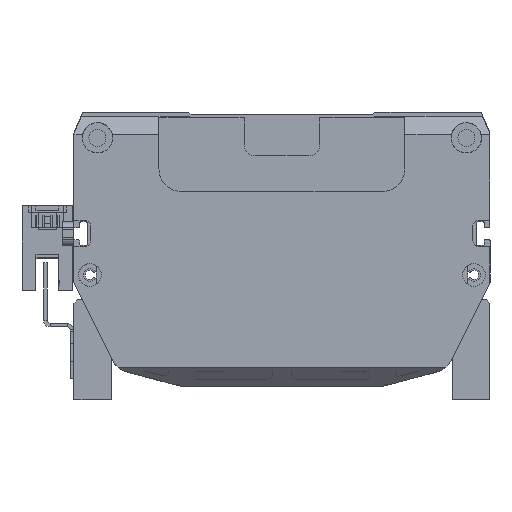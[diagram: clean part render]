
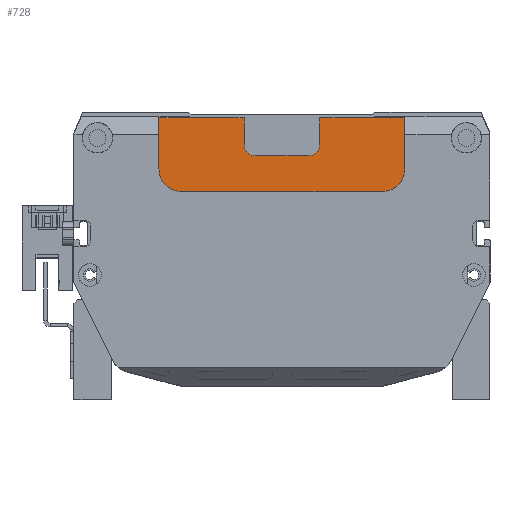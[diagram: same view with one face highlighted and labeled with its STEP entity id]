
A CAD part, front view. The second image highlights one B-rep face of the part: STEP entity #728.
In plain terms, the highlighted planar face has unit normal (0, -1, 0) as drawn and (0, 0, -1) by its records, which use the part's own axes.
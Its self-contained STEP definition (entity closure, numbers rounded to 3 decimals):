
#257 = VECTOR ( 'NONE', #12021, 1000. ) ;
#407 = VECTOR ( 'NONE', #11612, 1000. ) ;
#413 = VERTEX_POINT ( 'NONE', #13125 ) ;
#424 = VERTEX_POINT ( 'NONE', #18554 ) ;
#728 = ADVANCED_FACE ( 'NONE', ( #18961 ), #2646, .F. ) ;
#889 = LINE ( 'NONE', #15942, #5941 ) ;
#995 = DIRECTION ( 'NONE',  ( -1., 0., 0. ) ) ;
#1027 = VECTOR ( 'NONE', #6805, 1000. ) ;
#1184 = CARTESIAN_POINT ( 'NONE',  ( 18.5, 20.179, 4.5 ) ) ;
#1627 = CARTESIAN_POINT ( 'NONE',  ( 10.9, 0.679, 4.5 ) ) ;
#1762 = AXIS2_PLACEMENT_3D ( 'NONE', #13635, #4585, #15270 ) ;
#1885 = LINE ( 'NONE', #20341, #11264 ) ;
#2100 = DIRECTION ( 'NONE',  ( 0., 0., -1. ) ) ;
#2193 = DIRECTION ( 'NONE',  ( 0., -1., 0. ) ) ;
#2646 = PLANE ( 'NONE',  #1762 ) ;
#3013 = AXIS2_PLACEMENT_3D ( 'NONE', #6102, #6195, #4210 ) ;
#3296 = CARTESIAN_POINT ( 'NONE',  ( 83.5, 20.179, 4.5 ) ) ;
#3301 = DIRECTION ( 'NONE',  ( 1., 0., 0. ) ) ;
#3417 = ORIENTED_EDGE ( 'NONE', *, *, #19321, .T. ) ;
#3681 = LINE ( 'NONE', #19169, #11040 ) ;
#3831 = ORIENTED_EDGE ( 'NONE', *, *, #20858, .T. ) ;
#4210 = DIRECTION ( 'NONE',  ( 1., 0., 0. ) ) ;
#4585 = DIRECTION ( 'NONE',  ( 0., 0., 1. ) ) ;
#4936 = DIRECTION ( 'NONE',  ( 0., 0., -1. ) ) ;
#5822 = EDGE_CURVE ( 'NONE', #7610, #19292, #20590, .T. ) ;
#5850 = VERTEX_POINT ( 'NONE', #13736 ) ;
#5941 = VECTOR ( 'NONE', #17806, 1000. ) ;
#6039 = VERTEX_POINT ( 'NONE', #18711 ) ;
#6048 = CARTESIAN_POINT ( 'NONE',  ( 58., 10.679, 4.5 ) ) ;
#6102 = CARTESIAN_POINT ( 'NONE',  ( 77.5, 14.179, 4.5 ) ) ;
#6195 = DIRECTION ( 'NONE',  ( 0., 0., -1. ) ) ;
#6606 = DIRECTION ( 'NONE',  ( 0., 0., -1. ) ) ;
#6805 = DIRECTION ( 'NONE',  ( 0., -1., 0. ) ) ;
#7097 = CIRCLE ( 'NONE', #18647, 3. ) ;
#7237 = VECTOR ( 'NONE', #2193, 1000. ) ;
#7276 = VERTEX_POINT ( 'NONE', #20145 ) ;
#7610 = VERTEX_POINT ( 'NONE', #15074 ) ;
#7838 = ORIENTED_EDGE ( 'NONE', *, *, #9420, .F. ) ;
#7897 = EDGE_LOOP ( 'NONE', ( #15548, #7838, #17067, #20396, #15226, #22382, #23315, #18807, #10423, #11061, #3417, #19421, #3831, #18454 ) ) ;
#7937 = VERTEX_POINT ( 'NONE', #14356 ) ;
#8096 = LINE ( 'NONE', #3296, #1027 ) ;
#8272 = DIRECTION ( 'NONE',  ( 0., 1., 0. ) ) ;
#8418 = DIRECTION ( 'NONE',  ( 1., 0., 0. ) ) ;
#8945 = EDGE_CURVE ( 'NONE', #7937, #6039, #12617, .T. ) ;
#9333 = DIRECTION ( 'NONE',  ( 1., 0., 0. ) ) ;
#9405 = VERTEX_POINT ( 'NONE', #16672 ) ;
#9420 = EDGE_CURVE ( 'NONE', #19292, #9405, #15475, .T. ) ;
#10143 = LINE ( 'NONE', #1184, #257 ) ;
#10423 = ORIENTED_EDGE ( 'NONE', *, *, #16374, .T. ) ;
#10716 = DIRECTION ( 'NONE',  ( -1., 0., 0. ) ) ;
#11040 = VECTOR ( 'NONE', #995, 1000. ) ;
#11041 = EDGE_CURVE ( 'NONE', #7276, #413, #3681, .T. ) ;
#11061 = ORIENTED_EDGE ( 'NONE', *, *, #19150, .T. ) ;
#11264 = VECTOR ( 'NONE', #9333, 1000. ) ;
#11455 = EDGE_CURVE ( 'NONE', #5850, #7610, #12328, .T. ) ;
#11612 = DIRECTION ( 'NONE',  ( 1., 0., 0. ) ) ;
#11731 = CARTESIAN_POINT ( 'NONE',  ( 24.5, 20.179, 4.5 ) ) ;
#12021 = DIRECTION ( 'NONE',  ( 0., 1., 0. ) ) ;
#12291 = CARTESIAN_POINT ( 'NONE',  ( 83.5, 0.679, 4.5 ) ) ;
#12328 = LINE ( 'NONE', #6048, #407 ) ;
#12617 = CIRCLE ( 'NONE', #3013, 6. ) ;
#13125 = CARTESIAN_POINT ( 'NONE',  ( 18.5, 0.679, 4.5 ) ) ;
#13635 = CARTESIAN_POINT ( 'NONE',  ( 0., 0., 4.5 ) ) ;
#13736 = CARTESIAN_POINT ( 'NONE',  ( 44., 10.679, 4.5 ) ) ;
#13841 = CARTESIAN_POINT ( 'NONE',  ( 58., 7.679, 4.5 ) ) ;
#14052 = EDGE_CURVE ( 'NONE', #19631, #424, #18582, .T. ) ;
#14238 = LINE ( 'NONE', #1627, #16542 ) ;
#14344 = AXIS2_PLACEMENT_3D ( 'NONE', #13841, #6606, #8418 ) ;
#14356 = CARTESIAN_POINT ( 'NONE',  ( 77.5, 20.179, 4.5 ) ) ;
#14734 = EDGE_CURVE ( 'NONE', #7276, #17766, #889, .T. ) ;
#14954 = CIRCLE ( 'NONE', #18428, 6. ) ;
#15074 = CARTESIAN_POINT ( 'NONE',  ( 58., 10.679, 4.5 ) ) ;
#15226 = ORIENTED_EDGE ( 'NONE', *, *, #15324, .F. ) ;
#15270 = DIRECTION ( 'NONE',  ( 1., 0., 0. ) ) ;
#15324 = EDGE_CURVE ( 'NONE', #22402, #5850, #7097, .T. ) ;
#15378 = VECTOR ( 'NONE', #10716, 1000. ) ;
#15475 = LINE ( 'NONE', #22279, #7237 ) ;
#15548 = ORIENTED_EDGE ( 'NONE', *, *, #17251, .F. ) ;
#15587 = VERTEX_POINT ( 'NONE', #21331 ) ;
#15942 = CARTESIAN_POINT ( 'NONE',  ( 10.9, 0.679, 4.5 ) ) ;
#15959 = LINE ( 'NONE', #19236, #21414 ) ;
#16374 = EDGE_CURVE ( 'NONE', #413, #15587, #10143, .T. ) ;
#16542 = VECTOR ( 'NONE', #3301, 1000. ) ;
#16672 = CARTESIAN_POINT ( 'NONE',  ( 61., 0.679, 4.5 ) ) ;
#16777 = CARTESIAN_POINT ( 'NONE',  ( 61., 7.679, 4.5 ) ) ;
#17067 = ORIENTED_EDGE ( 'NONE', *, *, #5822, .F. ) ;
#17251 = EDGE_CURVE ( 'NONE', #9405, #424, #14238, .T. ) ;
#17587 = EDGE_CURVE ( 'NONE', #17766, #22402, #15959, .T. ) ;
#17766 = VERTEX_POINT ( 'NONE', #21506 ) ;
#17806 = DIRECTION ( 'NONE',  ( 1., 0., 0. ) ) ;
#18428 = AXIS2_PLACEMENT_3D ( 'NONE', #19733, #4936, #23356 ) ;
#18454 = ORIENTED_EDGE ( 'NONE', *, *, #14052, .T. ) ;
#18554 = CARTESIAN_POINT ( 'NONE',  ( 75., 0.679, 4.5 ) ) ;
#18582 = LINE ( 'NONE', #23370, #15378 ) ;
#18647 = AXIS2_PLACEMENT_3D ( 'NONE', #21757, #2100, #22276 ) ;
#18711 = CARTESIAN_POINT ( 'NONE',  ( 83.5, 14.179, 4.5 ) ) ;
#18807 = ORIENTED_EDGE ( 'NONE', *, *, #11041, .T. ) ;
#18961 = FACE_OUTER_BOUND ( 'NONE', #7897, .T. ) ;
#19150 = EDGE_CURVE ( 'NONE', #15587, #22010, #14954, .T. ) ;
#19169 = CARTESIAN_POINT ( 'NONE',  ( 10.9, 0.679, 4.5 ) ) ;
#19236 = CARTESIAN_POINT ( 'NONE',  ( 41., 0.679, 4.5 ) ) ;
#19292 = VERTEX_POINT ( 'NONE', #16777 ) ;
#19321 = EDGE_CURVE ( 'NONE', #22010, #7937, #1885, .T. ) ;
#19421 = ORIENTED_EDGE ( 'NONE', *, *, #8945, .T. ) ;
#19631 = VERTEX_POINT ( 'NONE', #12291 ) ;
#19733 = CARTESIAN_POINT ( 'NONE',  ( 24.5, 14.179, 4.5 ) ) ;
#20145 = CARTESIAN_POINT ( 'NONE',  ( 27., 0.679, 4.5 ) ) ;
#20341 = CARTESIAN_POINT ( 'NONE',  ( 18.5, 20.179, 4.5 ) ) ;
#20382 = CARTESIAN_POINT ( 'NONE',  ( 41., 7.679, 4.5 ) ) ;
#20396 = ORIENTED_EDGE ( 'NONE', *, *, #11455, .F. ) ;
#20590 = CIRCLE ( 'NONE', #14344, 3. ) ;
#20858 = EDGE_CURVE ( 'NONE', #6039, #19631, #8096, .T. ) ;
#21331 = CARTESIAN_POINT ( 'NONE',  ( 18.5, 14.179, 4.5 ) ) ;
#21414 = VECTOR ( 'NONE', #8272, 1000. ) ;
#21506 = CARTESIAN_POINT ( 'NONE',  ( 41., 0.679, 4.5 ) ) ;
#21757 = CARTESIAN_POINT ( 'NONE',  ( 44., 7.679, 4.5 ) ) ;
#22010 = VERTEX_POINT ( 'NONE', #11731 ) ;
#22276 = DIRECTION ( 'NONE',  ( 1., 0., 0. ) ) ;
#22279 = CARTESIAN_POINT ( 'NONE',  ( 61., 0.679, 4.5 ) ) ;
#22382 = ORIENTED_EDGE ( 'NONE', *, *, #17587, .F. ) ;
#22402 = VERTEX_POINT ( 'NONE', #20382 ) ;
#23315 = ORIENTED_EDGE ( 'NONE', *, *, #14734, .F. ) ;
#23356 = DIRECTION ( 'NONE',  ( 1., 0., 0. ) ) ;
#23370 = CARTESIAN_POINT ( 'NONE',  ( 10.9, 0.679, 4.5 ) ) ;
